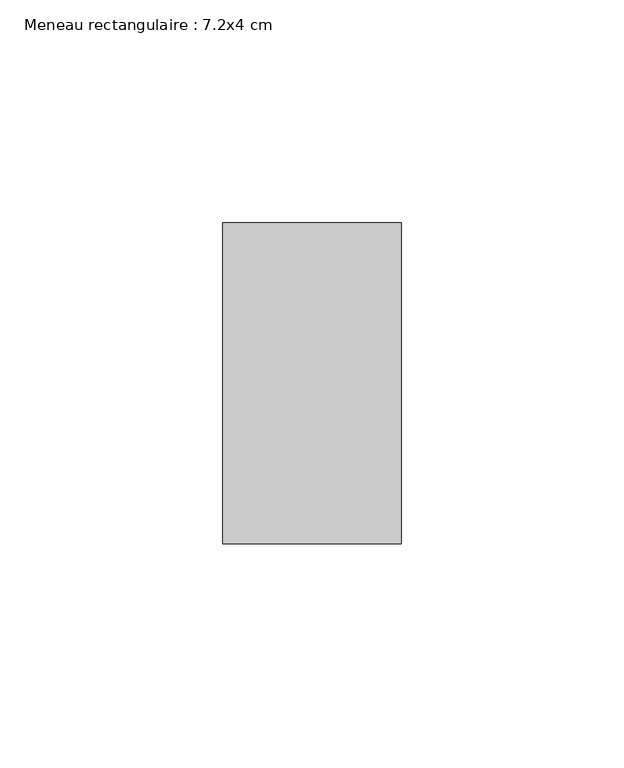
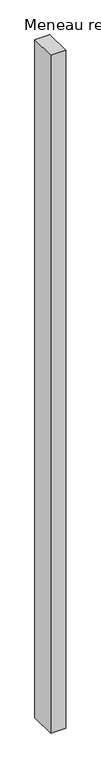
"""IFC4 building model written with IfcOpenShell, lengths in millimetres: member geometry, Meneau rectangulaire : 7.2x4 cm."""

import ifcopenshell
import ifcopenshell.guid

model = None  # the IFC model being written
_history = None  # IfcOwnerHistory: only IFC2X3 demands one
_inside = {}  # id of a spatial element -> (the spatial element, [elements in it])
_under = {}  # id of a project, library or spatial element -> (it, [spatial elements below it])
_declared = {}  # id of a project -> (the project, [libraries it declares])
_typed = {}  # id of a type object -> (the type object, [elements of that type])
_made_of = {}  # id of a material, layer set ... -> (it, [elements and type objects made of it])


def new_model(schema):
    """Start an empty IFC model of exactly this schema.

    Asked for "IFC4X3", IfcOpenShell would pick the latest addendum, in which some entities
    have other attributes; the version numbers below select the first issue.
    IFC2X3 requires an IfcOwnerHistory on every rooted entity: one is made here for all.
    """
    global model, _history
    if schema == "IFC4X3":
        model = ifcopenshell.file(schema_version=(4, 3, 0, 0))
    else:
        model = ifcopenshell.file(schema=schema)
    _inside.clear()
    _under.clear()
    _declared.clear()
    _typed.clear()
    _made_of.clear()
    _history = None
    if model.schema == "IFC2X3":
        org = make("IfcOrganization", Name="unknown")
        user = make(
            "IfcPersonAndOrganization",
            ThePerson=make("IfcPerson", FamilyName="unknown"),
            TheOrganization=org,
        )
        app = make(
            "IfcApplication",
            ApplicationDeveloper=org,
            Version="unknown",
            ApplicationFullName="unknown",
            ApplicationIdentifier="unknown",
        )
        _history = make(
            "IfcOwnerHistory",
            OwningUser=user,
            OwningApplication=app,
            ChangeAction="ADDED",
            CreationDate=0,
        )
    return model


def make(cls, **values):
    """One entity of the class cls with the attributes given. An attribute that is None is left unset."""
    return model.create_entity(
        cls, **{name: value for name, value in values.items() if value is not None}
    )


def rooted(cls, **values):
    """An entity with a GlobalId (a new one), such as an element, a storey or a relation."""
    return make(cls, GlobalId=ifcopenshell.guid.new(), OwnerHistory=_history, **values)


def si_unit(unit_type, name, prefix=None):
    """IfcSIUnit, for example si_unit("LENGTHUNIT", "METRE", prefix="MILLI")."""
    return make("IfcSIUnit", UnitType=unit_type, Prefix=prefix, Name=name)


def assignment(units):
    """IfcUnitAssignment: the units of a project."""
    return None if units is None else make("IfcUnitAssignment", Units=units)


def point(xyz):
    """IfcCartesianPoint."""
    return None if xyz is None else make("IfcCartesianPoint", Coordinates=xyz)


def direction(xyz):
    """IfcDirection."""
    return None if xyz is None else make("IfcDirection", DirectionRatios=xyz)


def frame(location, z_axis=None, x_axis=None):
    """IfcAxis2Placement3D, a coordinate frame: its origin and axes. An axis left out is left unset."""
    return make(
        "IfcAxis2Placement3D",
        Location=point(location),
        Axis=direction(z_axis),
        RefDirection=direction(x_axis),
    )


def origin():
    """The frame at (0, 0, 0) with its axes left unset."""
    return frame((0.0, 0.0, 0.0))


def place(relative_to, where):
    """IfcLocalPlacement: puts the frame where relative to a parent placement (None: the world)."""
    return make(
        "IfcLocalPlacement", PlacementRelTo=relative_to, RelativePlacement=where
    )


def context(
    kind, dimensions, precision=None, world=None, true_north=None, identifier=None
):
    """IfcGeometricRepresentationContext, for example the 3D "Model" context."""
    return make(
        "IfcGeometricRepresentationContext",
        ContextIdentifier=identifier,
        ContextType=kind,
        CoordinateSpaceDimension=dimensions,
        Precision=precision,
        WorldCoordinateSystem=world,
        TrueNorth=true_north,
    )


def project(units=None, contexts=None):
    """IfcProject with its units and contexts."""
    return rooted(
        "IfcProject",
        Name="project",
        RepresentationContexts=contexts,
        UnitsInContext=assignment(units),
    )


def spatial(cls, under=None, at=None, **own):
    """A site, building, storey or space (cls), placed at a placement, below another one or the project."""
    s = rooted(cls, ObjectPlacement=at, **own)
    if under is not None:
        _under.setdefault(under.id(), (under, []))[1].append(s)
    return s


def polyline(points):
    """IfcPolyline through the points."""
    return make("IfcPolyline", Points=[point(p) for p in points])


def outline(outer, holes=None, kind="AREA"):
    """IfcArbitraryClosedProfileDef: a profile drawn as a closed curve; with holes, ...WithVoids."""
    if holes is None:
        return make("IfcArbitraryClosedProfileDef", ProfileType=kind, OuterCurve=outer)
    return make(
        "IfcArbitraryProfileDefWithVoids",
        ProfileType=kind,
        OuterCurve=outer,
        InnerCurves=holes,
    )


def extrude(swept, where, along, depth):
    """IfcExtrudedAreaSolid: the profile swept, set in the frame where, extruded along a direction by depth."""
    return make(
        "IfcExtrudedAreaSolid",
        SweptArea=swept,
        Position=where,
        ExtrudedDirection=direction(along),
        Depth=depth,
    )


def shape(context_of_items, identifier, shape_type, items):
    """IfcShapeRepresentation: the items that make up one representation, for example the "Body"."""
    return make(
        "IfcShapeRepresentation",
        ContextOfItems=context_of_items,
        RepresentationIdentifier=identifier,
        RepresentationType=shape_type,
        Items=items,
    )


def source(mapping_origin, context_of_items, identifier, shape_type, items):
    """IfcRepresentationMap: a shape defined once, which mapped items show again and again."""
    return make(
        "IfcRepresentationMap",
        MappingOrigin=mapping_origin,
        MappedRepresentation=shape(context_of_items, identifier, shape_type, items),
    )


def transform(
    local_origin,
    x_axis=None,
    y_axis=None,
    z_axis=None,
    scale=None,
    scale2=None,
    scale3=None,
    uniform=True,
):
    """IfcCartesianTransformationOperator3D, or its non-uniform kind. x_axis, y_axis, z_axis: its Axis1, 2, 3."""
    if uniform:
        return make(
            "IfcCartesianTransformationOperator3D",
            Axis1=direction(x_axis),
            Axis2=direction(y_axis),
            LocalOrigin=point(local_origin),
            Scale=scale,
            Axis3=direction(z_axis),
        )
    return make(
        "IfcCartesianTransformationOperator3DnonUniform",
        Axis1=direction(x_axis),
        Axis2=direction(y_axis),
        LocalOrigin=point(local_origin),
        Scale=scale,
        Axis3=direction(z_axis),
        Scale2=scale2,
        Scale3=scale3,
    )


def mapped(mapping_source, mapping_target):
    """IfcMappedItem: shows the shape of a source again, moved by a transform."""
    return make(
        "IfcMappedItem", MappingSource=mapping_source, MappingTarget=mapping_target
    )


def made_of(thing, what):
    """Note that an element or type object is made of a material, layer set ...; save() writes the relation."""
    if what is not None:
        _made_of.setdefault(what.id(), (what, []))[1].append(thing)
    return thing


def element(
    cls,
    number,
    at=None,
    inside=None,
    cuts=None,
    type_object=None,
    material=None,
    context=None,
    identifier="Body",
    shape_type=None,
    held_by="IfcProductDefinitionShape",
    body=None,
    shapes=None,
    **own,
):
    """One element of the class cls, such as IfcWall. Its Tag is "e" and its number.

    at: its placement. inside: the storey or other place that contains it. cuts: it is an
    opening in that element (IfcRelVoidsElement). A single representation is given by context,
    identifier, shape_type and body (its items); several are given by shapes. held_by: the class
    of the entity that holds the representations. save() writes the other relations.
    """
    e = rooted(cls, Tag="e%d" % number, ObjectPlacement=at, **own)
    if body is not None:
        shapes = [shape(context, identifier, shape_type, body)]
    if shapes is not None:
        e.Representation = make(held_by, Representations=shapes)
    if inside is not None:
        _inside.setdefault(inside.id(), (inside, []))[1].append(e)
    if cuts is not None:
        rooted(
            "IfcRelVoidsElement", RelatingBuildingElement=cuts, RelatedOpeningElement=e
        )
    if type_object is not None:
        _typed.setdefault(type_object.id(), (type_object, []))[1].append(e)
    return made_of(e, material)


def aggregate(whole, parts):
    """IfcRelAggregates: a whole, such as a stair, and the parts it consists of."""
    return rooted("IfcRelAggregates", RelatingObject=whole, RelatedObjects=parts)


def save(model, path):
    """Write the relations noted so far, then the file.

    IfcRelAggregates (storeys below a building ...), IfcRelContainedInSpatialStructure (elements
    in a storey), IfcRelDefinesByType, IfcRelAssociatesMaterial and IfcRelDeclares: one each for
    every whole, place, type object, material and project.
    """
    for whole, parts in _under.values():
        aggregate(whole, parts)
    for where, things in _inside.values():
        rooted(
            "IfcRelContainedInSpatialStructure",
            RelatedElements=things,
            RelatingStructure=where,
        )
    for kind, things in _typed.values():
        rooted("IfcRelDefinesByType", RelatedObjects=things, RelatingType=kind)
    for what, things in _made_of.values():
        rooted("IfcRelAssociatesMaterial", RelatedObjects=things, RelatingMaterial=what)
    for by, libraries in _declared.values():
        rooted("IfcRelDeclares", RelatingContext=by, RelatedDefinitions=libraries)
    model.write(path)


def meneau_rectangulaire_7_2x4_cm_89717308(model_context):
    return source(origin(), model_context, "Body", "SweptSolid", [
        extrude(outline(polyline([(20.0, 36.0), (20.0, -36.0), (-20.0, -36.0), (-20.0, 36.0), (20.0, 36.0)])), frame((0.0, 0.0, -1904.0), z_axis=(0.0, 0.0, 1.0), x_axis=(1.0, 0.0, 0.0)), (0.0, 0.0, 1.0), 1904.0),
    ])


if __name__ == "__main__":
    model = new_model("IFC4")
    model_context = context("Model", 3, world=origin())
    ifc_project = project(units=[si_unit("LENGTHUNIT", "METRE", prefix="MILLI")], contexts=[model_context])
    site = spatial("IfcSite", under=ifc_project)
    building = spatial("IfcBuilding", under=site)
    placement = place(None, origin())
    meneau_rectangulaire_7_2x4_cm_shape = meneau_rectangulaire_7_2x4_cm_89717308(model_context)
    element("IfcMember", 1, ObjectType="Meneau rectangulaire : 7.2x4 cm", at=placement, inside=building, context=model_context, shape_type="MappedRepresentation", body=[
        mapped(meneau_rectangulaire_7_2x4_cm_shape, transform((0.0, 0.0, 0.0), x_axis=(1.0, 0.0, 0.0), y_axis=(0.0, 1.0, 0.0), z_axis=(0.0, 0.0, 1.0))),
    ])
    save(model, "model.ifc")
